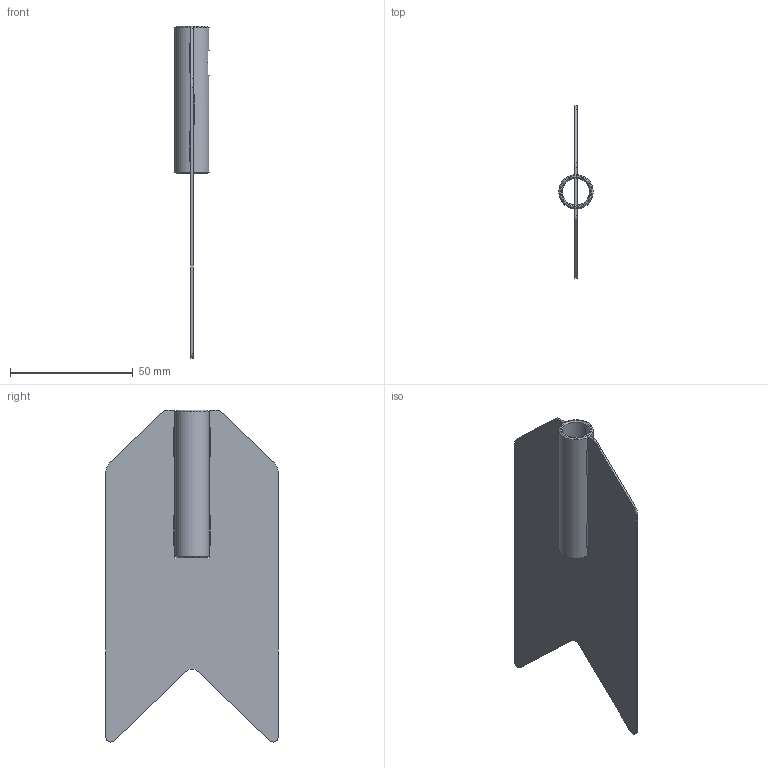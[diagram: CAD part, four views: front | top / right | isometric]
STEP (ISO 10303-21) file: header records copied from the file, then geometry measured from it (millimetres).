
FILE_DESCRIPTION(/* description */ (''),/* implementation_level */ '2;1');
FILE_NAME(/* name */ 'AC10-INOX.stp',/* time_stamp */ '2024-03-22T11:24:53+01:00',/* author */ ('filippo.guidetti'),/* organization */ (''),/* preprocessor_version */ 'ST-DEVELOPER v20',/* originating_system */ 'Autodesk Inventor 2024',/* authorisation */ '');
FILE_SCHEMA (('AUTOMOTIVE_DESIGN { 1 0 10303 214 3 1 1 }'));
Length unit declared in the file: millimetre
Products named in the file (1): AC10-INOX
Bounding box: 14 x 70 x 135.01 mm (x, y, z)
Volume: 9833.8 mm3; surface area: 19279.4 mm2
Topology: 1 solids, 1 shells, 59 faces, 188 edges, 116 vertices
Faces by surface type: plane 44, cylinder 11, cone 4
Full cylindrical faces by diameter (mm): 5.5 x1, 11 x1
Entity records: 2273 total; most frequent: CARTESIAN_POINT 413, ORIENTED_EDGE 384, DIRECTION 358, EDGE_CURVE 192, LINE 136, VECTOR 136, VERTEX_POINT 116, AXIS2_PLACEMENT_3D 111
